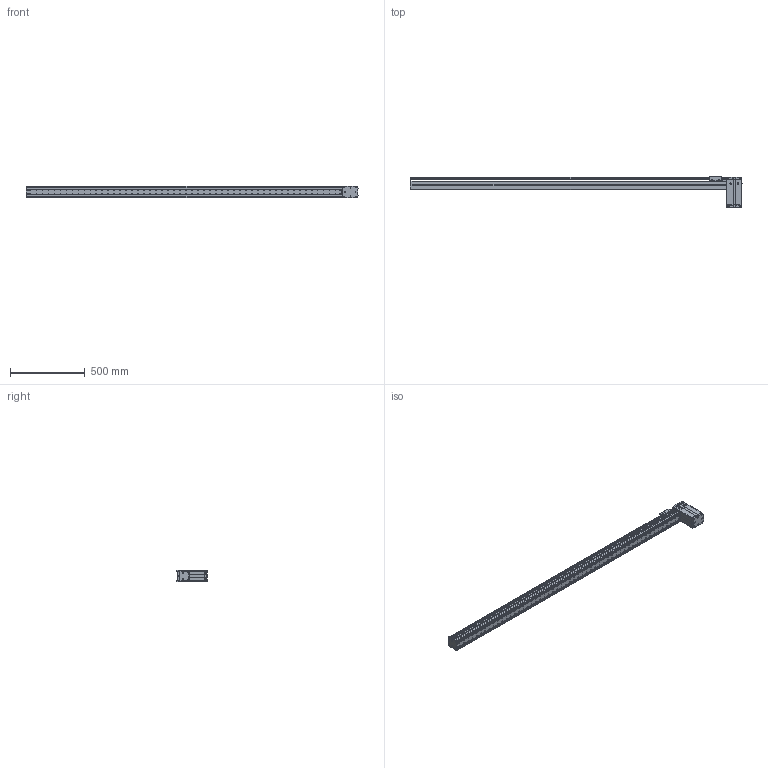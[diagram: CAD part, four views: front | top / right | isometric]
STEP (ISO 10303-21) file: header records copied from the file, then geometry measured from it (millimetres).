
FILE_DESCRIPTION((''),'2;1');
FILE_NAME('BE10_-BU-S_N-K5_IGS_PRT','2017-06-18T',(' '),(''),'PRO/ENGINEER BY PARAMETRIC TECHNOLOGY CORPORATION, 2015030','PRO/ENGINEER BY PARAMETRIC TECHNOLOGY CORPORATION, 2015030','');
FILE_SCHEMA(('CONFIG_CONTROL_DESIGN'));
Products named in the file (1): BE10_-BU-S_N-K5_IGS_PRT
Bounding box: 2220.8 x 202.72 x 78 mm (x, y, z)
Volume: 2828484.1 mm3; surface area: 2013338.1 mm2
Topology: 5 solids, 183 shells, 2342 faces, 6435 edges, 4292 vertices
Faces by surface type: cylinder 1107, plane 1076, cone 103, sphere 28, torus 25, bspline 3
Entity records: 77070 total; most frequent: CARTESIAN_POINT 15992, DIRECTION 13015, ORIENTED_EDGE 12066, EDGE_CURVE 6379, AXIS2_PLACEMENT_3D 4779, VERTEX_POINT 4291, VECTOR 3457, LINE 3457
